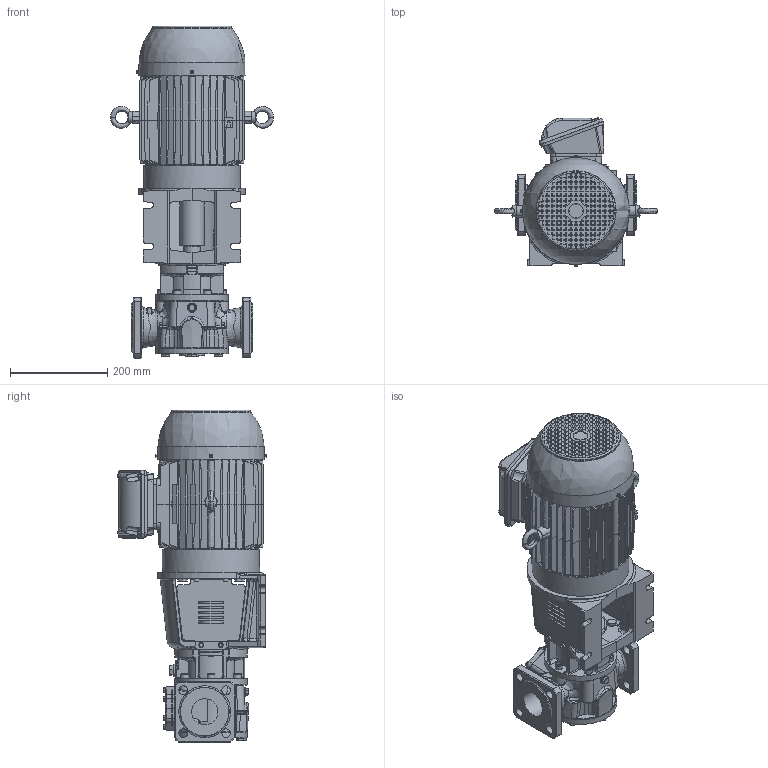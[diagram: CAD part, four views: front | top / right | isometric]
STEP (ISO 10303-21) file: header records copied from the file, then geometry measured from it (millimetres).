
FILE_DESCRIPTION(/* description */ (''),/* implementation_level */ '2;1');
FILE_NAME(/* name */ 'C:\V\JPP\Designs\GEAR PUMPS\PRODUCT ENGINEERING\EUROPE\TG BLOC\TG BLOC_15-50_G2_O_NRV-_112M-STEP.stp',/* time_stamp */ '2021-03-16T16:58:35+01:00',/* author */ ('A77THR'),/* organization */ (''),/* preprocessor_version */ 'ST-DEVELOPER v18.1',/* originating_system */ 'Autodesk Inventor 2020',/* authorisation */ '');
FILE_SCHEMA (('AUTOMOTIVE_DESIGN { 1 0 10303 214 3 1 1 }'));
Length unit declared in the file: millimetre
Products named in the file (1): TG BLOC_15-50_G2_O_NRV-_112M
Bounding box: 335.98 x 305.97 x 684.1 mm (x, y, z)
Volume: 17069227.4 mm3; surface area: 1094648.4 mm2
Topology: 1 solids, 1 shells, 4126 faces, 10612 edges, 6756 vertices
Faces by surface type: plane 2369, bspline 724, cylinder 561, cone 305, torus 118, sphere 49
Full cylindrical faces by diameter (mm): 4 x1, 4.5 x4, 4.917 x4, 5 x4, 5.459 x8, 6 x11, 6.647 x1, 7 x8, 8.376 x5, 8.5 x2, 8.7 x8, 9.188 x4, 10 x12, 10.5 x1, 11.445 x2, 11.5 x4, 12 x5, 15.011 x3, 15.4 x14, 16 x6, 17.9 x3, 18 x11, 19 x3, 21.939 x1, 25.9 x1, 26 x1, 27.6 x1, 27.9 x1, 28 x2, 29.4 x1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
Entity records: 169032 total; most frequent: CARTESIAN_POINT 70406, ORIENTED_EDGE 21108, DIRECTION 17436, EDGE_CURVE 10554, VERTEX_POINT 6756, AXIS2_PLACEMENT_3D 5883, LINE 5670, VECTOR 5670
